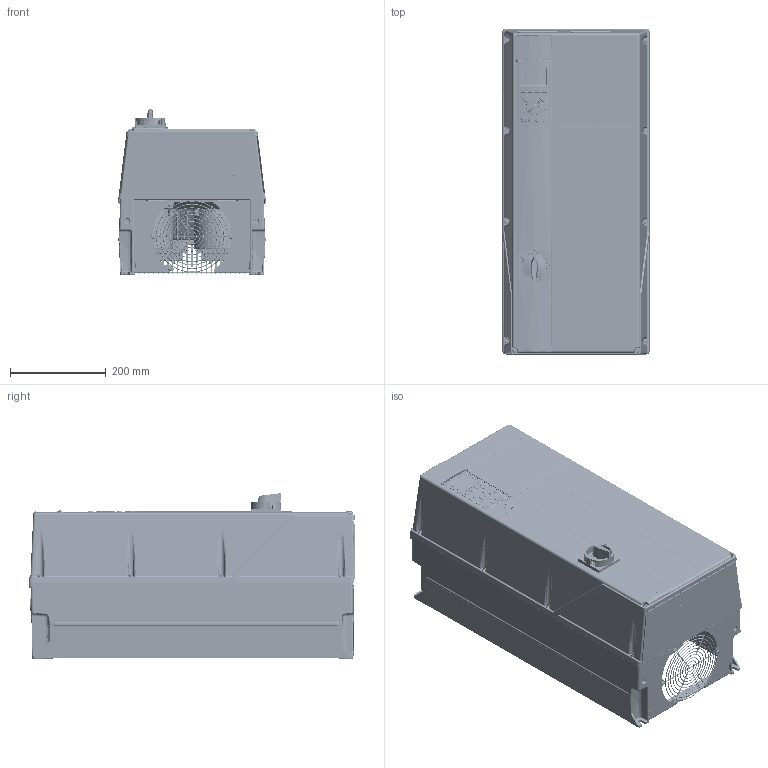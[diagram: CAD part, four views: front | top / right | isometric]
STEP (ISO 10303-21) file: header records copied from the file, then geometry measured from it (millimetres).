
FILE_DESCRIPTION((''),'2;1');
FILE_NAME('DANFOSS-FC100-C1-SWITCH','2011-10-13T',('cstephenkumar'),('Be-Atch INC. 1993'),'PRO/ENGINEER BY PARAMETRIC TECHNOLOGY CORPORATION, 2009360','PRO/ENGINEER BY PARAMETRIC TECHNOLOGY CORPORATION, 2009360','');
FILE_SCHEMA(('AUTOMOTIVE_DESIGN { 1 0 10303 214 1 1 1 1 }'));
Length unit declared in the file: millimetre
Products named in the file (1): DANFOSS-FC100-C1-SWITCH
Bounding box: 307.5 x 681.52 x 345.13 mm (x, y, z)
Volume: 41981624.2 mm3; surface area: 3399568.5 mm2
Topology: 1 solids, 20 shells, 6182 faces, 15564 edges, 9471 vertices
Faces by surface type: cylinder 1937, plane 1802, bspline 1462, cone 487, torus 472, sphere 19, extrusion 3
Entity records: 305414 total; most frequent: CARTESIAN_POINT 167952, ORIENTED_EDGE 30948, DIRECTION 24646, EDGE_CURVE 15474, VERTEX_POINT 9469, AXIS2_PLACEMENT_3D 9066, EDGE_LOOP 6515, VECTOR 6514
